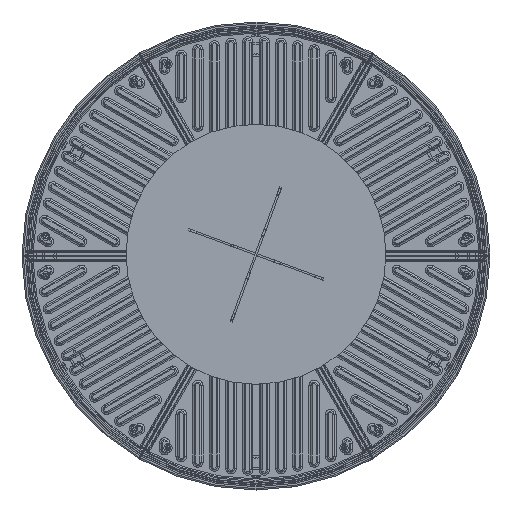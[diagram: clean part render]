
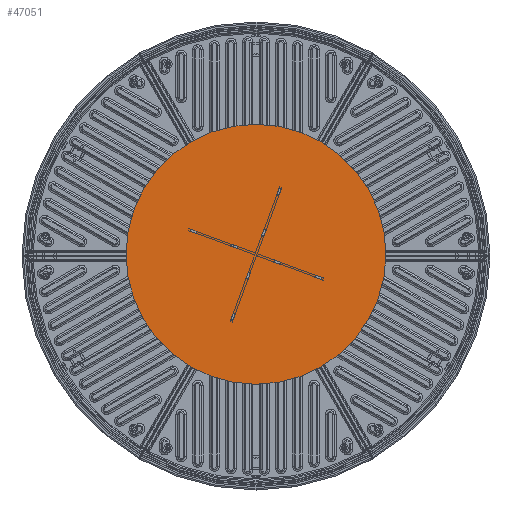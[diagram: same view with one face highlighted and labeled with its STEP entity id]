
A CAD part, top view. The second image highlights one B-rep face of the part: STEP entity #47051.
In plain terms, the highlighted planar face has unit normal (0, 0, 1).
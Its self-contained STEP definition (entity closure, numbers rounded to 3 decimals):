
#4527=LINE('',#80422,#8711);
#4531=LINE('',#80429,#8715);
#4534=LINE('',#80435,#8718);
#4536=LINE('',#80438,#8720);
#4539=LINE('',#80446,#8723);
#4543=LINE('',#80453,#8727);
#4546=LINE('',#80459,#8730);
#4548=LINE('',#80462,#8732);
#4551=LINE('',#80470,#8735);
#4555=LINE('',#80477,#8739);
#4558=LINE('',#80483,#8742);
#4560=LINE('',#80486,#8744);
#4563=LINE('',#80494,#8747);
#4567=LINE('',#80501,#8751);
#4570=LINE('',#80507,#8754);
#4572=LINE('',#80510,#8756);
#4575=LINE('',#80518,#8759);
#4579=LINE('',#80525,#8763);
#4582=LINE('',#80531,#8766);
#4584=LINE('',#80534,#8768);
#4587=LINE('',#80542,#8771);
#4591=LINE('',#80549,#8775);
#4594=LINE('',#80555,#8778);
#4596=LINE('',#80558,#8780);
#4599=LINE('',#80566,#8783);
#4603=LINE('',#80573,#8787);
#4606=LINE('',#80579,#8790);
#4608=LINE('',#80582,#8792);
#4611=LINE('',#80590,#8795);
#4615=LINE('',#80597,#8799);
#4618=LINE('',#80603,#8802);
#4620=LINE('',#80606,#8804);
#8711=VECTOR('',#61273,3.6);
#8715=VECTOR('',#61279,10.6);
#8718=VECTOR('',#61284,3.6);
#8720=VECTOR('',#61288,10.6);
#8723=VECTOR('',#61293,3.6);
#8727=VECTOR('',#61299,10.6);
#8730=VECTOR('',#61304,3.6);
#8732=VECTOR('',#61308,10.6);
#8735=VECTOR('',#61313,3.6);
#8739=VECTOR('',#61319,10.6);
#8742=VECTOR('',#61324,3.6);
#8744=VECTOR('',#61328,10.6);
#8747=VECTOR('',#61333,3.6);
#8751=VECTOR('',#61339,10.6);
#8754=VECTOR('',#61344,3.6);
#8756=VECTOR('',#61348,10.6);
#8759=VECTOR('',#61353,3.6);
#8763=VECTOR('',#61359,10.6);
#8766=VECTOR('',#61364,3.6);
#8768=VECTOR('',#61368,10.6);
#8771=VECTOR('',#61373,3.6);
#8775=VECTOR('',#61379,10.6);
#8778=VECTOR('',#61384,3.6);
#8780=VECTOR('',#61388,10.6);
#8783=VECTOR('',#61393,10.6);
#8787=VECTOR('',#61399,3.6);
#8790=VECTOR('',#61404,10.6);
#8792=VECTOR('',#61408,3.6);
#8795=VECTOR('',#61413,3.6);
#8799=VECTOR('',#61419,10.6);
#8802=VECTOR('',#61424,3.6);
#8804=VECTOR('',#61428,10.6);
#11056=PLANE('',#51021);
#11837=FACE_BOUND('',#16609,.T.);
#11838=FACE_BOUND('',#16610,.T.);
#11839=FACE_BOUND('',#16611,.T.);
#11840=FACE_BOUND('',#16612,.T.);
#11841=FACE_BOUND('',#16613,.T.);
#11842=FACE_BOUND('',#16614,.T.);
#11843=FACE_BOUND('',#16615,.T.);
#11844=FACE_BOUND('',#16616,.T.);
#13654=FACE_OUTER_BOUND('',#16608,.T.);
#16608=EDGE_LOOP('',(#40115));
#16609=EDGE_LOOP('',(#40116,#40117,#40118,#40119));
#16610=EDGE_LOOP('',(#40120,#40121,#40122,#40123));
#16611=EDGE_LOOP('',(#40124,#40125,#40126,#40127));
#16612=EDGE_LOOP('',(#40128,#40129,#40130,#40131));
#16613=EDGE_LOOP('',(#40132,#40133,#40134,#40135));
#16614=EDGE_LOOP('',(#40136,#40137,#40138,#40139));
#16615=EDGE_LOOP('',(#40140,#40141,#40142,#40143));
#16616=EDGE_LOOP('',(#40144,#40145,#40146,#40147));
#18724=CIRCLE('',#51019,200.);
#22463=VERTEX_POINT('',#80419);
#22464=VERTEX_POINT('',#80421);
#22466=VERTEX_POINT('',#80427);
#22468=VERTEX_POINT('',#80433);
#22471=VERTEX_POINT('',#80443);
#22472=VERTEX_POINT('',#80445);
#22474=VERTEX_POINT('',#80451);
#22476=VERTEX_POINT('',#80457);
#22479=VERTEX_POINT('',#80467);
#22480=VERTEX_POINT('',#80469);
#22482=VERTEX_POINT('',#80475);
#22484=VERTEX_POINT('',#80481);
#22487=VERTEX_POINT('',#80491);
#22488=VERTEX_POINT('',#80493);
#22490=VERTEX_POINT('',#80499);
#22492=VERTEX_POINT('',#80505);
#22495=VERTEX_POINT('',#80515);
#22496=VERTEX_POINT('',#80517);
#22498=VERTEX_POINT('',#80523);
#22500=VERTEX_POINT('',#80529);
#22503=VERTEX_POINT('',#80539);
#22504=VERTEX_POINT('',#80541);
#22506=VERTEX_POINT('',#80547);
#22508=VERTEX_POINT('',#80553);
#22511=VERTEX_POINT('',#80563);
#22512=VERTEX_POINT('',#80565);
#22514=VERTEX_POINT('',#80571);
#22516=VERTEX_POINT('',#80577);
#22519=VERTEX_POINT('',#80587);
#22520=VERTEX_POINT('',#80589);
#22522=VERTEX_POINT('',#80595);
#22524=VERTEX_POINT('',#80601);
#22525=VERTEX_POINT('',#80608);
#28519=EDGE_CURVE('',#22464,#22463,#4527,.T.);
#28523=EDGE_CURVE('',#22463,#22466,#4531,.T.);
#28526=EDGE_CURVE('',#22466,#22468,#4534,.T.);
#28528=EDGE_CURVE('',#22468,#22464,#4536,.T.);
#28531=EDGE_CURVE('',#22472,#22471,#4539,.T.);
#28535=EDGE_CURVE('',#22471,#22474,#4543,.T.);
#28538=EDGE_CURVE('',#22474,#22476,#4546,.T.);
#28540=EDGE_CURVE('',#22476,#22472,#4548,.T.);
#28543=EDGE_CURVE('',#22480,#22479,#4551,.T.);
#28547=EDGE_CURVE('',#22479,#22482,#4555,.T.);
#28550=EDGE_CURVE('',#22482,#22484,#4558,.T.);
#28552=EDGE_CURVE('',#22484,#22480,#4560,.T.);
#28555=EDGE_CURVE('',#22488,#22487,#4563,.T.);
#28559=EDGE_CURVE('',#22487,#22490,#4567,.T.);
#28562=EDGE_CURVE('',#22490,#22492,#4570,.T.);
#28564=EDGE_CURVE('',#22492,#22488,#4572,.T.);
#28567=EDGE_CURVE('',#22496,#22495,#4575,.T.);
#28571=EDGE_CURVE('',#22495,#22498,#4579,.T.);
#28574=EDGE_CURVE('',#22498,#22500,#4582,.T.);
#28576=EDGE_CURVE('',#22500,#22496,#4584,.T.);
#28579=EDGE_CURVE('',#22504,#22503,#4587,.T.);
#28583=EDGE_CURVE('',#22503,#22506,#4591,.T.);
#28586=EDGE_CURVE('',#22506,#22508,#4594,.T.);
#28588=EDGE_CURVE('',#22508,#22504,#4596,.T.);
#28591=EDGE_CURVE('',#22512,#22511,#4599,.T.);
#28595=EDGE_CURVE('',#22511,#22514,#4603,.T.);
#28598=EDGE_CURVE('',#22514,#22516,#4606,.T.);
#28600=EDGE_CURVE('',#22516,#22512,#4608,.T.);
#28603=EDGE_CURVE('',#22520,#22519,#4611,.T.);
#28607=EDGE_CURVE('',#22519,#22522,#4615,.T.);
#28610=EDGE_CURVE('',#22522,#22524,#4618,.T.);
#28612=EDGE_CURVE('',#22524,#22520,#4620,.T.);
#28613=EDGE_CURVE('',#22525,#22525,#18724,.T.);
#40115=ORIENTED_EDGE('',*,*,#28613,.F.);
#40116=ORIENTED_EDGE('',*,*,#28519,.T.);
#40117=ORIENTED_EDGE('',*,*,#28523,.T.);
#40118=ORIENTED_EDGE('',*,*,#28526,.T.);
#40119=ORIENTED_EDGE('',*,*,#28528,.T.);
#40120=ORIENTED_EDGE('',*,*,#28531,.T.);
#40121=ORIENTED_EDGE('',*,*,#28535,.T.);
#40122=ORIENTED_EDGE('',*,*,#28538,.T.);
#40123=ORIENTED_EDGE('',*,*,#28540,.T.);
#40124=ORIENTED_EDGE('',*,*,#28543,.T.);
#40125=ORIENTED_EDGE('',*,*,#28547,.T.);
#40126=ORIENTED_EDGE('',*,*,#28550,.T.);
#40127=ORIENTED_EDGE('',*,*,#28552,.T.);
#40128=ORIENTED_EDGE('',*,*,#28555,.T.);
#40129=ORIENTED_EDGE('',*,*,#28559,.T.);
#40130=ORIENTED_EDGE('',*,*,#28562,.T.);
#40131=ORIENTED_EDGE('',*,*,#28564,.T.);
#40132=ORIENTED_EDGE('',*,*,#28567,.T.);
#40133=ORIENTED_EDGE('',*,*,#28571,.T.);
#40134=ORIENTED_EDGE('',*,*,#28574,.T.);
#40135=ORIENTED_EDGE('',*,*,#28576,.T.);
#40136=ORIENTED_EDGE('',*,*,#28579,.T.);
#40137=ORIENTED_EDGE('',*,*,#28583,.T.);
#40138=ORIENTED_EDGE('',*,*,#28586,.T.);
#40139=ORIENTED_EDGE('',*,*,#28588,.T.);
#40140=ORIENTED_EDGE('',*,*,#28591,.T.);
#40141=ORIENTED_EDGE('',*,*,#28595,.T.);
#40142=ORIENTED_EDGE('',*,*,#28598,.T.);
#40143=ORIENTED_EDGE('',*,*,#28600,.T.);
#40144=ORIENTED_EDGE('',*,*,#28603,.T.);
#40145=ORIENTED_EDGE('',*,*,#28607,.T.);
#40146=ORIENTED_EDGE('',*,*,#28610,.T.);
#40147=ORIENTED_EDGE('',*,*,#28612,.T.);
#47051=ADVANCED_FACE('',(#13654,#11837,#11838,#11839,#11840,#11841,#11842,
#11843,#11844),#11056,.F.);
#51019=AXIS2_PLACEMENT_3D('',#80609,#61431,#61432);
#51021=AXIS2_PLACEMENT_3D('',#80612,#61435,#61436);
#61273=DIRECTION('',(0.,-1.,0.));
#61279=DIRECTION('',(-1.,0.,0.));
#61284=DIRECTION('',(0.,1.,0.));
#61288=DIRECTION('',(1.,0.,0.));
#61293=DIRECTION('',(1.,0.,0.));
#61299=DIRECTION('',(0.,-1.,0.));
#61304=DIRECTION('',(-1.,0.,0.));
#61308=DIRECTION('',(0.,1.,0.));
#61313=DIRECTION('',(0.,-1.,0.));
#61319=DIRECTION('',(-1.,0.,0.));
#61324=DIRECTION('',(0.,1.,0.));
#61328=DIRECTION('',(1.,0.,0.));
#61333=DIRECTION('',(1.,0.,0.));
#61339=DIRECTION('',(0.,-1.,0.));
#61344=DIRECTION('',(-1.,0.,0.));
#61348=DIRECTION('',(0.,1.,0.));
#61353=DIRECTION('',(1.,0.,0.));
#61359=DIRECTION('',(0.,-1.,0.));
#61364=DIRECTION('',(-1.,0.,0.));
#61368=DIRECTION('',(0.,1.,0.));
#61373=DIRECTION('',(0.,-1.,0.));
#61379=DIRECTION('',(-1.,0.,0.));
#61384=DIRECTION('',(0.,1.,0.));
#61388=DIRECTION('',(1.,0.,0.));
#61393=DIRECTION('',(0.,1.,0.));
#61399=DIRECTION('',(1.,0.,0.));
#61404=DIRECTION('',(0.,-1.,0.));
#61408=DIRECTION('',(-1.,0.,0.));
#61413=DIRECTION('',(0.,-1.,0.));
#61419=DIRECTION('',(-1.,0.,0.));
#61424=DIRECTION('',(0.,1.,0.));
#61428=DIRECTION('',(1.,0.,0.));
#61431=DIRECTION('center_axis',(0.,0.,-1.));
#61432=DIRECTION('ref_axis',(-1.,0.,0.));
#61435=DIRECTION('center_axis',(0.,0.,-1.));
#61436=DIRECTION('ref_axis',(-1.,0.,0.));
#80419=CARTESIAN_POINT('',(40.3,-1.8,3.));
#80421=CARTESIAN_POINT('',(40.3,1.8,3.));
#80422=CARTESIAN_POINT('',(40.3,-0.9,3.));
#80427=CARTESIAN_POINT('',(29.7,-1.8,3.));
#80429=CARTESIAN_POINT('',(14.85,-1.8,3.));
#80433=CARTESIAN_POINT('',(29.7,1.8,3.));
#80435=CARTESIAN_POINT('',(29.7,0.9,3.));
#80438=CARTESIAN_POINT('',(20.15,1.8,3.));
#80443=CARTESIAN_POINT('',(1.75,-29.65,3.));
#80445=CARTESIAN_POINT('',(-1.85,-29.65,3.));
#80446=CARTESIAN_POINT('',(0.875,-29.65,3.));
#80451=CARTESIAN_POINT('',(1.75,-40.25,3.));
#80453=CARTESIAN_POINT('',(1.75,-20.125,3.));
#80457=CARTESIAN_POINT('',(-1.85,-40.25,3.));
#80459=CARTESIAN_POINT('',(-0.925,-40.25,3.));
#80462=CARTESIAN_POINT('',(-1.85,-14.825,3.));
#80467=CARTESIAN_POINT('',(-29.7,-1.8,3.));
#80469=CARTESIAN_POINT('',(-29.7,1.8,3.));
#80470=CARTESIAN_POINT('',(-29.7,-0.9,3.));
#80475=CARTESIAN_POINT('',(-40.3,-1.8,3.));
#80477=CARTESIAN_POINT('',(-20.15,-1.8,3.));
#80481=CARTESIAN_POINT('',(-40.3,1.8,3.));
#80483=CARTESIAN_POINT('',(-40.3,0.9,3.));
#80486=CARTESIAN_POINT('',(-14.85,1.8,3.));
#80491=CARTESIAN_POINT('',(1.75,107.751,3.));
#80493=CARTESIAN_POINT('',(-1.85,107.751,3.));
#80494=CARTESIAN_POINT('',(0.875,107.751,3.));
#80499=CARTESIAN_POINT('',(1.75,97.151,3.));
#80501=CARTESIAN_POINT('',(1.75,48.575,3.));
#80505=CARTESIAN_POINT('',(-1.85,97.151,3.));
#80507=CARTESIAN_POINT('',(-0.925,97.151,3.));
#80510=CARTESIAN_POINT('',(-1.85,53.875,3.));
#80515=CARTESIAN_POINT('',(1.75,40.35,3.));
#80517=CARTESIAN_POINT('',(-1.85,40.35,3.));
#80518=CARTESIAN_POINT('',(0.875,40.35,3.));
#80523=CARTESIAN_POINT('',(1.75,29.75,3.));
#80525=CARTESIAN_POINT('',(1.75,14.875,3.));
#80529=CARTESIAN_POINT('',(-1.85,29.75,3.));
#80531=CARTESIAN_POINT('',(-0.925,29.75,3.));
#80534=CARTESIAN_POINT('',(-1.85,20.175,3.));
#80539=CARTESIAN_POINT('',(-97.15,-1.8,3.));
#80541=CARTESIAN_POINT('',(-97.15,1.8,3.));
#80542=CARTESIAN_POINT('',(-97.15,-0.9,3.));
#80547=CARTESIAN_POINT('',(-107.75,-1.8,3.));
#80549=CARTESIAN_POINT('',(-53.875,-1.8,3.));
#80553=CARTESIAN_POINT('',(-107.75,1.8,3.));
#80555=CARTESIAN_POINT('',(-107.75,0.9,3.));
#80558=CARTESIAN_POINT('',(-48.575,1.8,3.));
#80563=CARTESIAN_POINT('',(-1.85,-97.151,3.));
#80565=CARTESIAN_POINT('',(-1.85,-107.751,3.));
#80566=CARTESIAN_POINT('',(-1.85,-48.575,3.));
#80571=CARTESIAN_POINT('',(1.75,-97.151,3.));
#80573=CARTESIAN_POINT('',(0.875,-97.151,3.));
#80577=CARTESIAN_POINT('',(1.75,-107.751,3.));
#80579=CARTESIAN_POINT('',(1.75,-53.875,3.));
#80582=CARTESIAN_POINT('',(-0.925,-107.751,3.));
#80587=CARTESIAN_POINT('',(107.75,-1.8,3.));
#80589=CARTESIAN_POINT('',(107.75,1.8,3.));
#80590=CARTESIAN_POINT('',(107.75,-0.9,3.));
#80595=CARTESIAN_POINT('',(97.15,-1.8,3.));
#80597=CARTESIAN_POINT('',(48.575,-1.8,3.));
#80601=CARTESIAN_POINT('',(97.15,1.8,3.));
#80603=CARTESIAN_POINT('',(97.15,0.9,3.));
#80606=CARTESIAN_POINT('',(53.875,1.8,3.));
#80608=CARTESIAN_POINT('',(200.,0.,3.));
#80609=CARTESIAN_POINT('Origin',(0.,0.,3.));
#80612=CARTESIAN_POINT('Origin',(0.,0.,3.));
